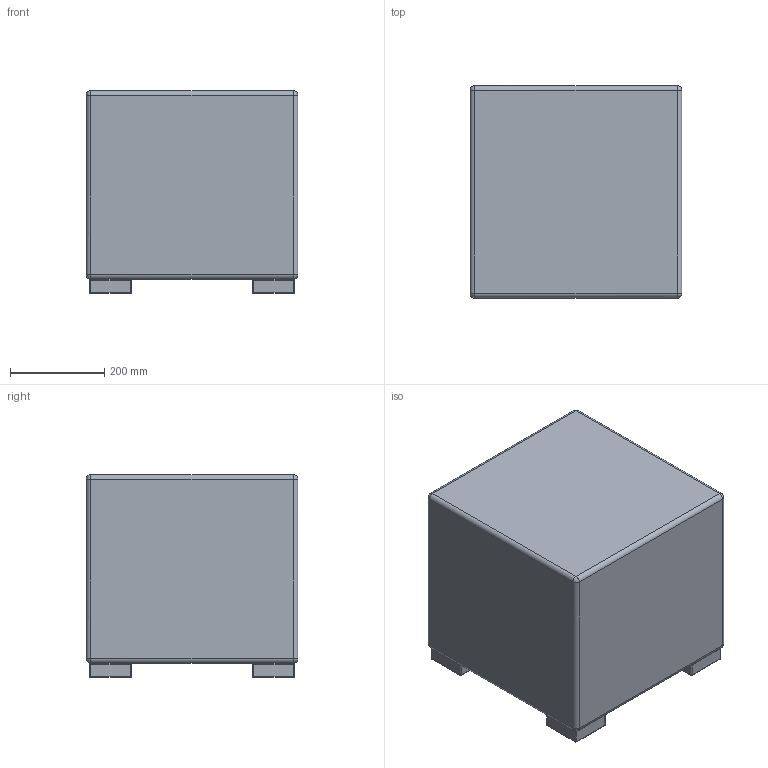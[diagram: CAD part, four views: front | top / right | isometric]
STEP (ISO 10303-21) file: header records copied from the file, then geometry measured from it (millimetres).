
FILE_DESCRIPTION(/* description */ (''),/* implementation_level */ '2;1');
FILE_NAME(/* name */ 'KINOSH~1',/* time_stamp */ '2019-07-08T10:20:18+09:00',/* author */ (''),/* organization */ (''),/* preprocessor_version */ 'ST-DEVELOPER v15',/* originating_system */ '',/* authorisation */ '');
FILE_SCHEMA (('AUTOMOTIVE_DESIGN'));
Length unit declared in the file: millimetre
Products named in the file (1): Document
Bounding box: 450 x 450 x 430 mm (x, y, z)
Volume: 81858401.7 mm3; surface area: 1207437.2 mm2
Topology: 5 solids, 5 shells, 130 faces, 280 edges, 152 vertices
Faces by surface type: bspline 100, plane 30
Entity records: 6517 total; most frequent: CARTESIAN_POINT 4912, ORIENTED_EDGE 544, EDGE_CURVE 272, VERTEX_POINT 152, ADVANCED_FACE 130, FACE_OUTER_BOUND 130, EDGE_LOOP 130, B_SPLINE_CURVE_WITH_KNOTS 120
